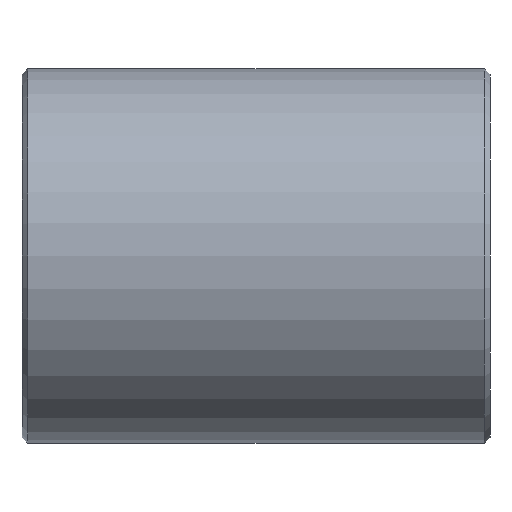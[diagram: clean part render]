
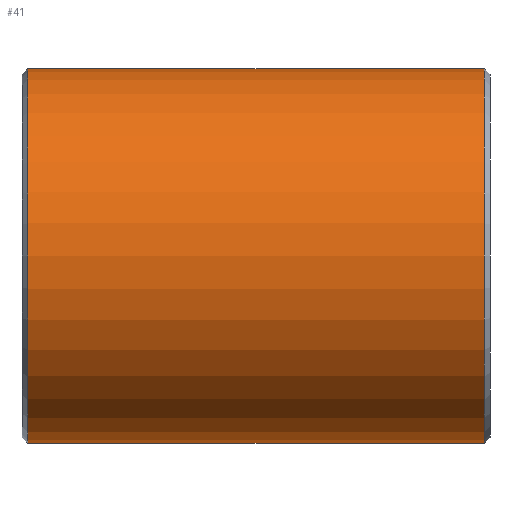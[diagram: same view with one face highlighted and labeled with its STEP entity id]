
A CAD part, left-side view. The second image highlights one B-rep face of the part: STEP entity #41.
In plain terms, the highlighted cylindrical face has radius 10 mm (diameter 20 mm), a partial arc.
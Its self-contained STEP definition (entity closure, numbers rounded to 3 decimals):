
#2 = VERTEX_POINT ( 'NONE', #391 ) ;
#7 = VERTEX_POINT ( 'NONE', #67 ) ;
#20 = AXIS2_PLACEMENT_3D ( 'NONE', #408, #397, #192 ) ;
#41 = ADVANCED_FACE ( 'NONE', ( #264 ), #84, .T. ) ;
#50 = CIRCLE ( 'NONE', #20, 10. ) ;
#57 = AXIS2_PLACEMENT_3D ( 'NONE', #75, #101, #298 ) ;
#67 = CARTESIAN_POINT ( 'NONE',  ( 0., -12.2, -10. ) ) ;
#68 = EDGE_LOOP ( 'NONE', ( #356, #86, #83, #378 ) ) ;
#75 = CARTESIAN_POINT ( 'NONE',  ( 0., 12.2, 0. ) ) ;
#83 = ORIENTED_EDGE ( 'NONE', *, *, #344, .T. ) ;
#84 = CYLINDRICAL_SURFACE ( 'NONE', #358, 10. ) ;
#86 = ORIENTED_EDGE ( 'NONE', *, *, #353, .T. ) ;
#91 = EDGE_CURVE ( 'NONE', #7, #349, #50, .T. ) ;
#96 = VECTOR ( 'NONE', #361, 1000. ) ;
#101 = DIRECTION ( 'NONE',  ( 0., -1., 0. ) ) ;
#112 = VERTEX_POINT ( 'NONE', #385 ) ;
#114 = CARTESIAN_POINT ( 'NONE',  ( 0., 12.5, 0. ) ) ;
#118 = LINE ( 'NONE', #369, #203 ) ;
#120 = CARTESIAN_POINT ( 'NONE',  ( 0., 12.5, -10. ) ) ;
#154 = CARTESIAN_POINT ( 'NONE',  ( 0., -12.2, 10. ) ) ;
#165 = EDGE_CURVE ( 'NONE', #112, #349, #118, .T. ) ;
#192 = DIRECTION ( 'NONE',  ( 0., 0., 1. ) ) ;
#203 = VECTOR ( 'NONE', #240, 1000. ) ;
#240 = DIRECTION ( 'NONE',  ( 0., -1., 0. ) ) ;
#264 = FACE_OUTER_BOUND ( 'NONE', #68, .T. ) ;
#298 = DIRECTION ( 'NONE',  ( 0., 0., 1. ) ) ;
#327 = CIRCLE ( 'NONE', #57, 10. ) ;
#344 = EDGE_CURVE ( 'NONE', #2, #7, #394, .T. ) ;
#349 = VERTEX_POINT ( 'NONE', #154 ) ;
#353 = EDGE_CURVE ( 'NONE', #112, #2, #327, .T. ) ;
#356 = ORIENTED_EDGE ( 'NONE', *, *, #165, .F. ) ;
#358 = AXIS2_PLACEMENT_3D ( 'NONE', #114, #399, #389 ) ;
#361 = DIRECTION ( 'NONE',  ( 0., -1., 0. ) ) ;
#369 = CARTESIAN_POINT ( 'NONE',  ( 0., 12.5, 10. ) ) ;
#378 = ORIENTED_EDGE ( 'NONE', *, *, #91, .T. ) ;
#385 = CARTESIAN_POINT ( 'NONE',  ( 0., 12.2, 10. ) ) ;
#389 = DIRECTION ( 'NONE',  ( 0., 0., -1. ) ) ;
#391 = CARTESIAN_POINT ( 'NONE',  ( 0., 12.2, -10. ) ) ;
#394 = LINE ( 'NONE', #120, #96 ) ;
#397 = DIRECTION ( 'NONE',  ( 0., 1., 0. ) ) ;
#399 = DIRECTION ( 'NONE',  ( 0., -1., 0. ) ) ;
#408 = CARTESIAN_POINT ( 'NONE',  ( 0., -12.2, 0. ) ) ;
